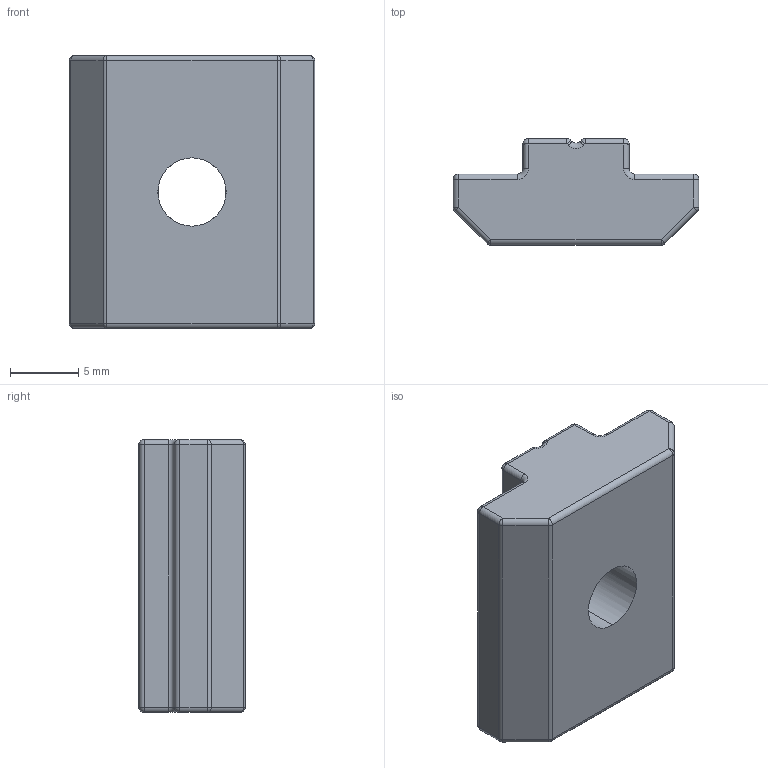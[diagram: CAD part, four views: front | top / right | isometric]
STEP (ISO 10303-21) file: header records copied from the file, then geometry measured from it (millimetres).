
FILE_DESCRIPTION (( 'STEP AP203' ), '1' );
FILE_NAME ('5070.STEP', '2016-04-22T16:54:34', ( '' ), ( '' ), 'SwSTEP 2.0', 'SolidWorks 2014', '' );
FILE_SCHEMA (( 'CONFIG_CONTROL_DESIGN' ));
Length unit declared in the file: millimetre
Products named in the file (1): 5070
Bounding box: 18 x 7.8 x 20 mm (x, y, z)
Volume: 1981 mm3; surface area: 1232.2 mm2
Topology: 1 solids, 1 shells, 87 faces, 202 edges, 100 vertices
Faces by surface type: cylinder 44, sphere 20, plane 17, torus 6
Entity records: 2381 total; most frequent: DIRECTION 438, CARTESIAN_POINT 410, ORIENTED_EDGE 372, EDGE_CURVE 186, AXIS2_PLACEMENT_3D 176, VERTEX_POINT 100, CIRCLE 88, EDGE_LOOP 88
